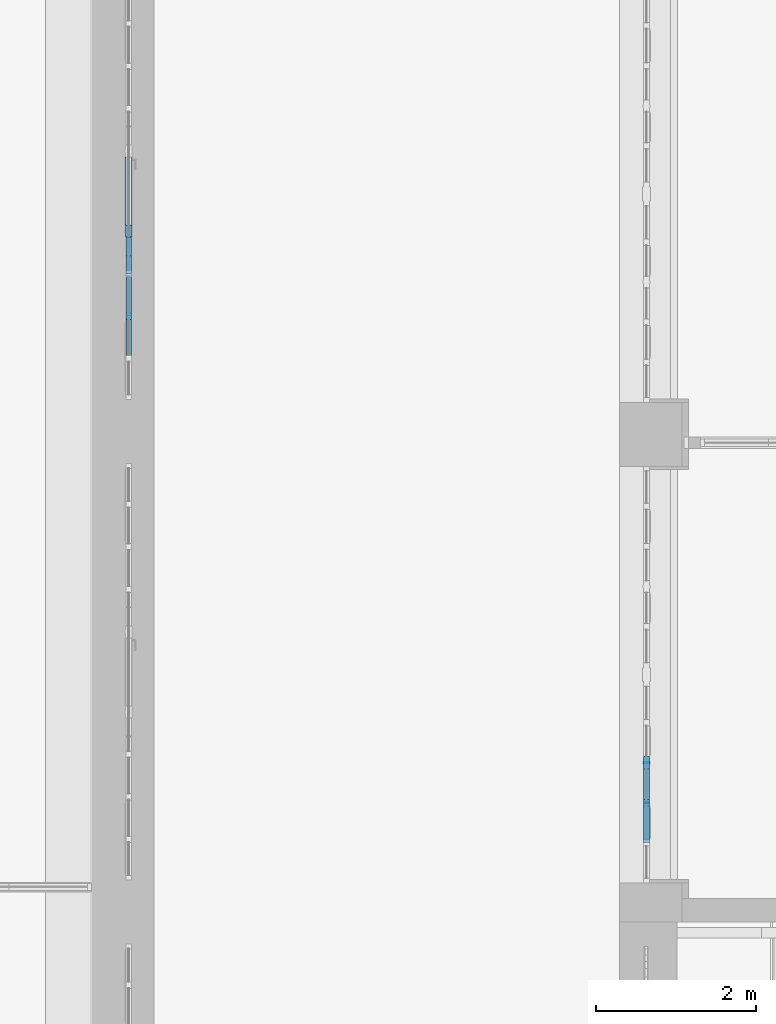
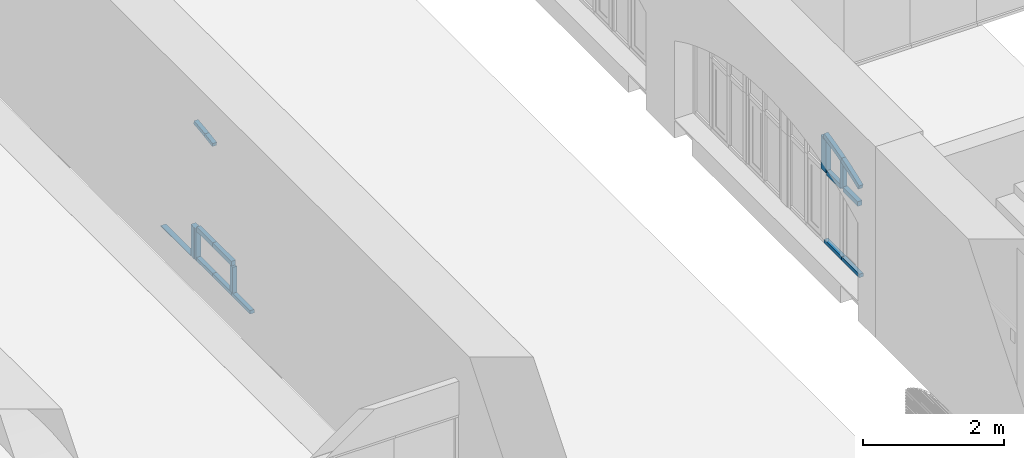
# One storey, part 36 of 88: 18 members, 2 elements without a shape of their own.
"""IFC2X3 building model written with IfcOpenShell, lengths in millimetres."""

from ifc_helpers import new_model, entity, si_unit, converted_unit, derived_unit, direction, frame, frame_2d, origin, place, context, subcontext, project, spatial, polyline, circle_curve, parameter, trimmed, segment, composite_curve, rectangle, outline, extrude, faceted_brep, source, transform, mapped, material, type_object, type_shapes, element, aggregate, save


model = new_model("IFC2X3")

# Units and contexts
model_context = context("Model", 3, precision=0.01, world=origin(), true_north=direction((6.123031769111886e-17, 1.0)))
body_context = subcontext(model_context, "Body", "Model", "MODEL_VIEW")
ifc_project = project(units=[si_unit("LENGTHUNIT", "METRE", prefix="MILLI"), si_unit("AREAUNIT", "SQUARE_METRE"), si_unit("VOLUMEUNIT", "CUBIC_METRE"), converted_unit("PLANEANGLEUNIT", "DEGREE", entity("IfcPlaneAngleMeasure", 0.017453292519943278), si_unit("PLANEANGLEUNIT", "RADIAN"), dimensions=[0, 0, 0, 0, 0, 0, 0]), si_unit("MASSUNIT", "GRAM", prefix="KILO"), derived_unit("MASSDENSITYUNIT", [(si_unit("MASSUNIT", "GRAM", prefix="KILO"), 1), (si_unit("LENGTHUNIT", "METRE"), -3)]), derived_unit("IONCONCENTRATIONUNIT", [(si_unit("MASSUNIT", "GRAM", prefix="KILO"), 1), (si_unit("LENGTHUNIT", "METRE"), -3)]), derived_unit("MOMENTOFINERTIAUNIT", [(si_unit("LENGTHUNIT", "METRE"), 4)]), si_unit("TIMEUNIT", "SECOND"), si_unit("FREQUENCYUNIT", "HERTZ"), si_unit("THERMODYNAMICTEMPERATUREUNIT", "DEGREE_CELSIUS"), derived_unit("THERMALTRANSMITTANCEUNIT", [(si_unit("MASSUNIT", "GRAM", prefix="KILO"), 1), (si_unit("THERMODYNAMICTEMPERATUREUNIT", "KELVIN"), -1), (si_unit("TIMEUNIT", "SECOND"), -3)]), derived_unit("THERMALCONDUCTANCEUNIT", [(si_unit("MASSUNIT", "GRAM", prefix="KILO"), 1), (si_unit("THERMODYNAMICTEMPERATUREUNIT", "KELVIN"), -1), (si_unit("TIMEUNIT", "SECOND"), -3), (si_unit("LENGTHUNIT", "METRE"), 1)]), derived_unit("VOLUMETRICFLOWRATEUNIT", [(si_unit("LENGTHUNIT", "METRE", prefix="DECI"), 3), (si_unit("TIMEUNIT", "SECOND"), -1)]), derived_unit("MASSFLOWRATEUNIT", [(si_unit("MASSUNIT", "GRAM", prefix="KILO"), 1), (si_unit("TIMEUNIT", "SECOND"), -1)]), derived_unit("ROTATIONALFREQUENCYUNIT", [(si_unit("TIMEUNIT", "SECOND"), -1)]), si_unit("ELECTRICCURRENTUNIT", "AMPERE"), si_unit("ELECTRICVOLTAGEUNIT", "VOLT"), si_unit("POWERUNIT", "WATT"), si_unit("FORCEUNIT", "NEWTON", prefix="KILO"), si_unit("ILLUMINANCEUNIT", "LUX"), si_unit("LUMINOUSFLUXUNIT", "LUMEN"), si_unit("LUMINOUSINTENSITYUNIT", "CANDELA"), si_unit("ENERGYUNIT", "JOULE"), derived_unit("USERDEFINED", [(si_unit("MASSUNIT", "GRAM", prefix="KILO"), -1), (si_unit("LENGTHUNIT", "METRE"), -2), (si_unit("TIMEUNIT", "SECOND"), 3), (si_unit("LUMINOUSFLUXUNIT", "LUMEN"), 1)]), derived_unit("USERDEFINED", [(si_unit("MASSUNIT", "GRAM", prefix="KILO"), 1), (si_unit("TIMEUNIT", "SECOND"), -3), (si_unit("LENGTHUNIT", "METRE"), 3), (si_unit("ELECTRICCURRENTUNIT", "AMPERE"), -2)]), derived_unit("SOUNDPOWERUNIT", [(si_unit("MASSUNIT", "GRAM", prefix="KILO"), 1), (si_unit("TIMEUNIT", "SECOND"), -3), (si_unit("LENGTHUNIT", "METRE"), 2)]), derived_unit("SOUNDPRESSUREUNIT", [(si_unit("MASSUNIT", "GRAM", prefix="KILO"), 1), (si_unit("LENGTHUNIT", "METRE"), -1), (si_unit("TIMEUNIT", "SECOND"), -2)]), derived_unit("LINEARVELOCITYUNIT", [(si_unit("LENGTHUNIT", "METRE"), 1), (si_unit("TIMEUNIT", "SECOND"), -1)]), si_unit("PRESSUREUNIT", "PASCAL"), derived_unit("USERDEFINED", [(si_unit("MASSUNIT", "GRAM", prefix="KILO"), 1), (si_unit("LENGTHUNIT", "METRE"), -2), (si_unit("TIMEUNIT", "SECOND"), -2)]), derived_unit("LINEARFORCEUNIT", [(si_unit("MASSUNIT", "GRAM", prefix="KILO"), 1), (si_unit("TIMEUNIT", "SECOND"), -2)]), derived_unit("PLANARFORCEUNIT", [(si_unit("MASSUNIT", "GRAM", prefix="KILO"), 1), (si_unit("LENGTHUNIT", "METRE"), -1), (si_unit("TIMEUNIT", "SECOND"), -2)]), derived_unit("SPECIFICHEATCAPACITYUNIT", [(si_unit("THERMODYNAMICTEMPERATUREUNIT", "KELVIN"), -1), (si_unit("LENGTHUNIT", "METRE"), 2), (si_unit("TIMEUNIT", "SECOND"), -2)]), derived_unit("HEATFLUXDENSITYUNIT", [(si_unit("MASSUNIT", "GRAM", prefix="KILO"), 1), (si_unit("TIMEUNIT", "SECOND"), -3)]), derived_unit("HEATINGVALUEUNIT", [(si_unit("LENGTHUNIT", "METRE"), 2), (si_unit("TIMEUNIT", "SECOND"), -2)]), derived_unit("VAPORPERMEABILITYUNIT", [(si_unit("LENGTHUNIT", "METRE"), -1), (si_unit("TIMEUNIT", "SECOND"), 1)]), derived_unit("DYNAMICVISCOSITYUNIT", [(si_unit("MASSUNIT", "GRAM", prefix="KILO"), 1), (si_unit("TIMEUNIT", "SECOND"), -1), (si_unit("LENGTHUNIT", "METRE"), -1)]), derived_unit("THERMALEXPANSIONCOEFFICIENTUNIT", [(si_unit("THERMODYNAMICTEMPERATUREUNIT", "KELVIN"), -1)]), derived_unit("MODULUSOFELASTICITYUNIT", [(si_unit("MASSUNIT", "GRAM", prefix="KILO"), 1), (si_unit("LENGTHUNIT", "METRE"), -1), (si_unit("TIMEUNIT", "SECOND"), -2)]), derived_unit("ISOTHERMALMOISTURECAPACITYUNIT", [(si_unit("MASSUNIT", "GRAM", prefix="KILO"), -1), (si_unit("LENGTHUNIT", "METRE"), 3)]), derived_unit("MOISTUREDIFFUSIVITYUNIT", [(si_unit("TIMEUNIT", "SECOND"), -1), (si_unit("LENGTHUNIT", "METRE"), 2)]), derived_unit("MASSPERLENGTHUNIT", [(si_unit("MASSUNIT", "GRAM", prefix="KILO"), 1), (si_unit("LENGTHUNIT", "METRE"), -1)]), derived_unit("THERMALRESISTANCEUNIT", [(si_unit("MASSUNIT", "GRAM", prefix="KILO"), -1), (si_unit("TIMEUNIT", "SECOND"), 3), (si_unit("THERMODYNAMICTEMPERATUREUNIT", "KELVIN"), 1)]), derived_unit("ACCELERATIONUNIT", [(si_unit("LENGTHUNIT", "METRE"), 1), (si_unit("TIMEUNIT", "SECOND"), -2)]), derived_unit("ANGULARVELOCITYUNIT", [(si_unit("TIMEUNIT", "SECOND"), -1), (si_unit("PLANEANGLEUNIT", "RADIAN"), 1)]), derived_unit("LINEARSTIFFNESSUNIT", [(si_unit("MASSUNIT", "GRAM", prefix="KILO"), 1), (si_unit("TIMEUNIT", "SECOND"), -2)]), derived_unit("WARPINGCONSTANTUNIT", [(si_unit("LENGTHUNIT", "METRE"), 6)]), derived_unit("LINEARMOMENTUNIT", [(si_unit("MASSUNIT", "GRAM", prefix="KILO"), 1), (si_unit("LENGTHUNIT", "METRE"), 1), (si_unit("TIMEUNIT", "SECOND"), -2)]), derived_unit("TORQUEUNIT", [(si_unit("MASSUNIT", "GRAM", prefix="KILO"), 1), (si_unit("LENGTHUNIT", "METRE"), 2), (si_unit("TIMEUNIT", "SECOND"), -2)])], contexts=[model_context])

# Site, building, storey
site_placement = place(None, origin())
site = spatial("IfcSite", under=ifc_project, at=site_placement, Name="Default", CompositionType="ELEMENT")
building_placement = place(site_placement, origin())
building = spatial("IfcBuilding", under=site, at=building_placement, Name="Eesti Rahvusraamatukogu hoone renoveerimise projekteerimistööd", CompositionType="ELEMENT")
storey_placement = place(building_placement, origin())
storey = spatial("IfcBuildingStorey", under=building, at=storey_placement, Name="1. korrus", CompositionType="ELEMENT", Elevation=0.0)

# Curtain wall, members
curtain_wall_type_1 = type_object("IfcCurtainWallType", Name="Curtain Wall:Ak-02", PredefinedType="NOTDEFINED")
curtain_wall_1_placement = place(storey_placement, origin())
curtain_wall_1 = element("IfcCurtainWall", 1, at=curtain_wall_1_placement, inside=storey, type_object=curtain_wall_type_1, Name="Curtain Wall:Ak-02", ObjectType="Curtain Wall:Ak-02")
ifc_material_1 = material(Name="LUMION_dark steel window frames")
member_type_1 = type_object("IfcMemberType", Name="Rectangular Mullion:NEW 80x70mm", PredefinedType="MULLION", material=ifc_material_1)
shared_shape_1 = source(origin(), body_context, "Body", "SweptSolid", [
    extrude(outline(composite_curve([segment(polyline([(-51.95542765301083, -255.69780513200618), (28.044572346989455, -255.69780513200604)]), True, "CONTINUOUS"), segment(trimmed(circle_curve(frame_2d((5468.760252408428, -255.6978051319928), x_axis=(-0.9956372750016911, 0.09330818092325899)), 5440.715680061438), [parameter(3.5622212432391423e-13)], [parameter(5.353953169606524)], True, "PARAMETER"), False, "CONTINUOUS"), segment(polyline([(51.78091865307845, 251.96547789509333), (-27.870063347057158, 259.4301323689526)]), True, "CONTINUOUS"), segment(trimmed(circle_curve(frame_2d((5468.760252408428, -255.6978051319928), x_axis=(-0.9956372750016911, 0.09330818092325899)), 5520.715680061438), [parameter(3.5622212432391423e-13)], [parameter(5.353953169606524)], True, "PARAMETER"), True, "CONTINUOUS")], self_intersect=False)), frame((-51.9554276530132, -35.0, -255.6978051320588), z_axis=(0.0, 1.0, 0.0), x_axis=(-0.9956372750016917, 0.0, 0.09330818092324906)), (0.0, 0.0, 1.0), 70.00000000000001),
])
type_shapes(member_type_1, [shared_shape_1])
member_1_placement = place(curtain_wall_1_placement, frame((-36440.0, 31790.0, 3743.6333100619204), z_axis=(0.0, -0.9570819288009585, -0.2898174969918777), x_axis=(0.0, -0.2898174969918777, 0.9570819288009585)))
member_1 = element("IfcMember", 2, at=member_1_placement, type_object=member_type_1, material=ifc_material_1, Name="Rectangular Mullion:NEW 80x70mm", ObjectType="Rectangular Mullion:NEW 80x70mm", context=body_context, shape_type="MappedRepresentation", body=[
    mapped(shared_shape_1, transform((0.0, 0.0, 0.0), scale=1.0)),
])
member_type_2 = type_object("IfcMemberType", Name="Rectangular Mullion:NEW 80x70mm", PredefinedType="MULLION", material=ifc_material_1)
shared_shape_2 = source(origin(), body_context, "Body", "SweptSolid", [
    extrude(outline(composite_curve([segment(polyline([(-52.66438607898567, -263.1530214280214), (27.33561392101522, -263.1530214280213)]), True, "CONTINUOUS"), segment(trimmed(circle_curve(frame_2d((5468.05129398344, -263.15302142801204), x_axis=(-0.9953785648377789, 0.09602870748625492)), 5440.715680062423), [parameter(3.5622212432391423e-13)], [parameter(5.510531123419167)], True, "PARAMETER"), False, "CONTINUOUS"), segment(polyline([(52.47952867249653, 259.31187312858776), (-27.150756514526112, 266.99416972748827)]), True, "CONTINUOUS"), segment(trimmed(circle_curve(frame_2d((5468.05129398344, -263.15302142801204), x_axis=(-0.9953785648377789, 0.09602870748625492)), 5520.715680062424), [parameter(3.5622212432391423e-13)], [parameter(5.510531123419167)], True, "PARAMETER"), True, "CONTINUOUS")], self_intersect=False)), frame((-52.66438607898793, -35.0, -263.1530214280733), z_axis=(0.0, 1.0, 0.0), x_axis=(-0.9953785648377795, 0.0, 0.09602870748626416)), (0.0, 0.0, 1.0), 70.0),
])
type_shapes(member_type_2, [shared_shape_2])
member_2_placement = place(curtain_wall_1_placement, frame((-36440.0, 31290.0, 3565.568744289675), z_axis=(0.0, -0.9248280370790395, -0.38038546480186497), x_axis=(0.0, -0.38038546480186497, 0.9248280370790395)))
member_2 = element("IfcMember", 3, at=member_2_placement, type_object=member_type_2, material=ifc_material_1, Name="Rectangular Mullion:NEW 80x70mm", ObjectType="Rectangular Mullion:NEW 80x70mm", context=body_context, shape_type="MappedRepresentation", body=[
    mapped(shared_shape_2, transform((0.0, 0.0, 0.0), scale=1.0)),
])
member_type_3 = type_object("IfcMemberType", Name="Rectangular Mullion:NEW 150x90mm", PredefinedType="MULLION", material=ifc_material_1)
shared_shape_3 = source(origin(), body_context, "Body", "Brep", [
    faceted_brep([(-20.0, -40.0, 0.0), (-20.0, -45.0, 0.0), (20.0, -45.0, 0.0), (20.0, -40.0, 0.0), (75.0, -40.0, 0.0), (75.0, 40.0, 0.0), (20.0, 40.0, 0.0), (20.0, 45.0, 0.0), (-20.0, 45.0, 0.0), (-20.0, 40.0, 0.0), (-75.0, 40.0, 0.0), (-75.0, -40.0, 0.0), (-20.0, 40.0, -562.3027332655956), (-47.48603249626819, 40.0, -567.7959127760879), (-75.0, 40.0, -573.1474168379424), (75.0, 40.0, -542.1778237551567), (47.51534075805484, 40.0, -548.1824945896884), (20.0, 40.0, -554.044967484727), (-75.0, -40.0, -573.1474168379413), (-47.48603249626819, -40.0, -567.7959127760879), (-20.0, -40.0, -562.3027332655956), (20.0, -40.0, -554.0449674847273), (47.51534075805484, -40.0, -548.1824945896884), (75.0, -40.0, -542.1778237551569), (-20.0, -45.0, -562.3027332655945), (-20.0, 45.0, -562.3027332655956), (-17.969902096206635, -45.0, -561.891167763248), (-15.939962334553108, -45.0, -561.4788296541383), (2.036281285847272, -45.0, -557.7922042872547), (20.0, -45.0, -554.044967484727), (20.0, 45.0, -554.0449674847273), (2.0362812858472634, 45.0, -557.7922042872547), (-15.939962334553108, 45.0, -561.4788296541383), (-17.969902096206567, 45.0, -561.8911677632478), (-15.939962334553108, -33.75000000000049, -561.4788296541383), (-15.939962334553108, -22.50000000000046, -561.4788296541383), (-15.939962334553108, 33.7499999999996, -561.4788296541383), (-15.939962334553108, 22.49999999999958, -561.4788296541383), (-15.939962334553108, 0.0, -561.4788296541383)], [[[0, 1, 2, 3, 4, 5, 6, 7, 8, 9, 10, 11]], [[10, 9, 12, 13, 14]], [[6, 5, 15, 16, 17]], [[11, 10, 14, 18]], [[0, 11, 18, 19, 20]], [[4, 3, 21, 22, 23]], [[1, 0, 20, 24]], [[9, 8, 25, 12]], [[1, 24, 26, 27, 28, 29, 2]], [[3, 2, 29, 21]], [[7, 6, 17, 30]], [[5, 4, 23, 15]], [[7, 30, 31, 32, 33, 25, 8]], [[26, 20, 27]], [[34, 27, 20, 35]], [[12, 32, 36, 37]], [[12, 33, 32]], [[12, 25, 33]], [[20, 26, 24]], [[38, 35, 19, 13, 37]], [[19, 35, 20]], [[13, 19, 18, 14]], [[12, 37, 13]], [[15, 23, 22, 16]], [[16, 22, 21, 17]], [[21, 29, 28, 31, 30, 17]], [[31, 28, 27, 34, 35, 38, 37, 36, 32]]]),
])
type_shapes(member_type_3, [shared_shape_3])
member_3_placement = place(curtain_wall_1_placement, frame((-36440.0, 32290.0, 3230.0), z_axis=(0.0, 0.0, -1.0), x_axis=(0.0, -1.0, 0.0)))
member_3 = element("IfcMember", 4, at=member_3_placement, type_object=member_type_3, material=ifc_material_1, Name="Rectangular Mullion:NEW 150x90mm", ObjectType="Rectangular Mullion:NEW 150x90mm", context=body_context, shape_type="MappedRepresentation", body=[
    mapped(shared_shape_3, transform((0.0, 0.0, 0.0), scale=1.0)),
])
member_type_4 = type_object("IfcMemberType", Name="Rectangular Mullion:NEW 80x70mm", PredefinedType="MULLION", material=ifc_material_1)
shared_shape_4 = source(origin(), body_context, "Body", "SweptSolid", [
    extrude(outline(composite_curve([segment(polyline([(-259.341776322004, -44.637079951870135), (158.1715113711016, -44.637079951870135)]), True, "CONTINUOUS"), segment(trimmed(circle_curve(frame_2d((-5029.485677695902, 1595.362920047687), x_axis=(0.9248280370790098, -0.3803854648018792)), 5440.715680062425), [parameter(4.8139927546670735)], [parameter(5.510531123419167)], True, "PARAMETER"), True, "CONTINUOUS"), segment(trimmed(circle_curve(frame_2d((-5029.48567769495, 1595.3629200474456), x_axis=(0.9570819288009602, -0.28981749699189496)), 5440.715680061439), [parameter(0.0)], [parameter(0.18492371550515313)], True, "PARAMETER"), True, "CONTINUOUS"), segment(polyline([(182.78706183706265, 35.36292004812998), (-259.341776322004, 35.362920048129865)]), True, "CONTINUOUS"), segment(polyline([(-259.341776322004, 35.362920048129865), (-259.341776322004, -44.637079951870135)]), True, "CONTINUOUS")], self_intersect=False)), frame((-4.637079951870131, -35.0, -259.341776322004), z_axis=(0.0, 1.0, 0.0), x_axis=(0.0, 0.0, -1.0)), (0.0, 0.0, 1.0), 69.99999999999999),
])
type_shapes(member_type_4, [shared_shape_4])
member_4_placement = place(curtain_wall_1_placement, frame((-36440.0, 31790.0, 3230.0), z_axis=(0.0, 0.0, -1.0), x_axis=(0.0, -1.0, 0.0)))
member_4 = element("IfcMember", 5, at=member_4_placement, type_object=member_type_4, material=ifc_material_1, Name="Rectangular Mullion:NEW 80x70mm", ObjectType="Rectangular Mullion:NEW 80x70mm", context=body_context, shape_type="MappedRepresentation", body=[
    mapped(shared_shape_4, transform((0.0, 0.0, 0.0), scale=1.0)),
])
member_type_5 = type_object("IfcMemberType", Name="Rectangular Mullion:NEW 80x70mm", PredefinedType="MULLION", material=ifc_material_1)
shared_shape_5 = source(origin(), body_context, "Body", "SweptSolid", [
    extrude(rectangle(XDim=80.0, YDim=70.0, at=frame_2d((0.0, -3.552713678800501e-15), x_axis=(1.0, 0.0))), frame((0.0, 0.0, -420.0), z_axis=(0.0, 0.0, 1.0), x_axis=(-1.0, 0.0, 0.0)), (0.0, 0.0, 1.0), 419.999999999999),
])
type_shapes(member_type_5, [shared_shape_5])
member_5_placement = place(curtain_wall_1_placement, frame((-36440.0, 31330.0, 3230.0), z_axis=(0.0, -1.0, 0.0), x_axis=(0.0, 0.0, 1.0)))
member_5 = element("IfcMember", 6, at=member_5_placement, type_object=member_type_5, material=ifc_material_1, Name="Rectangular Mullion:NEW 80x70mm", ObjectType="Rectangular Mullion:NEW 80x70mm", context=body_context, shape_type="MappedRepresentation", body=[
    mapped(shared_shape_5, transform((0.0, 0.0, 0.0), scale=1.0)),
])
member_type_6 = type_object("IfcMemberType", Name="Rectangular Mullion:NEW 80x70mm", PredefinedType="MULLION", material=ifc_material_1)
shared_shape_6 = source(origin(), body_context, "Body", "SweptSolid", [
    extrude(rectangle(XDim=80.0, YDim=70.0, at=frame_2d((0.0, -3.552713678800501e-15), x_axis=(1.0, 0.0))), frame((0.0, 0.0, -385.0), z_axis=(0.0, 0.0, 1.0), x_axis=(-1.0, 0.0, 0.0)), (0.0, 0.0, 1.0), 384.99999999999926),
])
type_shapes(member_type_6, [shared_shape_6])
member_6_placement = place(curtain_wall_1_placement, frame((-36440.0, 31830.0, 3230.0), z_axis=(0.0, -1.0, 0.0), x_axis=(0.0, 0.0, 1.0)))
member_6 = element("IfcMember", 7, at=member_6_placement, type_object=member_type_6, material=ifc_material_1, Name="Rectangular Mullion:NEW 80x70mm", ObjectType="Rectangular Mullion:NEW 80x70mm", context=body_context, shape_type="MappedRepresentation", body=[
    mapped(shared_shape_6, transform((0.0, 0.0, 0.0), scale=1.0)),
])
member_type_7 = type_object("IfcMemberType", Name="Rectangular Mullion:NEW 60x70mm", PredefinedType="MULLION", material=ifc_material_1)
shared_shape_7 = source(origin(), body_context, "Body", "SweptSolid", [
    extrude(rectangle(XDim=60.0, YDim=70.0, at=frame_2d((0.0, 3.552713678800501e-15), x_axis=(1.0, 0.0))), frame((-30.0, 0.0, -500.0), z_axis=(0.0, 0.0, 1.0), x_axis=(-1.0, 0.0, 0.0)), (0.0, 0.0, 1.0), 499.999999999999),
])
type_shapes(member_type_7, [shared_shape_7])
member_7_placement = place(curtain_wall_1_placement, frame((-36440.0, 32290.0, 1980.0), z_axis=(0.0, 1.0, 0.0), x_axis=(0.0, 0.0, -1.0)))
member_7 = element("IfcMember", 8, at=member_7_placement, type_object=member_type_7, material=ifc_material_1, Name="Rectangular Mullion:NEW 60x70mm", ObjectType="Rectangular Mullion:NEW 60x70mm", context=body_context, shape_type="MappedRepresentation", body=[
    mapped(shared_shape_7, transform((0.0, 0.0, 0.0), scale=1.0)),
])
member_8_placement = place(curtain_wall_1_placement, frame((-36440.0, 31790.0, 1980.0), z_axis=(0.0, 1.0, 0.0), x_axis=(0.0, 0.0, -1.0)))
member_8 = element("IfcMember", 9, at=member_8_placement, type_object=member_type_7, material=ifc_material_1, Name="Rectangular Mullion:NEW 60x70mm", ObjectType="Rectangular Mullion:NEW 60x70mm", context=body_context, shape_type="MappedRepresentation", body=[
    mapped(shared_shape_7, transform((0.0, 0.0, 0.0), scale=1.0)),
])
aggregate(curtain_wall_1, [member_1, member_2, member_3, member_4, member_6, member_5, member_7, member_8])

curtain_wall_type_2 = type_object("IfcCurtainWallType", Name="Curtain Wall:Ak-05", PredefinedType="NOTDEFINED")
curtain_wall_2_placement = place(storey_placement, origin())
curtain_wall_2 = element("IfcCurtainWall", 10, at=curtain_wall_2_placement, inside=storey, type_object=curtain_wall_type_2, Name="Curtain Wall:Ak-05", ObjectType="Curtain Wall:Ak-05")
member_type_8 = type_object("IfcMemberType", Name="Rectangular Mullion:NEW 60x70mm", PredefinedType="MULLION", material=ifc_material_1)
shared_shape_8 = source(origin(), body_context, "Body", "SweptSolid", [
    extrude(outline(composite_curve([segment(polyline([(-32.20246871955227, -109.97239538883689), (27.79753128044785, -109.97239538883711)]), True, "CONTINUOUS"), segment(trimmed(circle_curve(frame_2d((5491.078098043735, -109.97239538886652), x_axis=(-0.9991981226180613, 0.040038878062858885)), 5463.280566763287), [parameter(3.5622212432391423e-13)], [parameter(2.2946721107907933)], True, "PARAMETER"), False, "CONTINUOUS"), segment(polyline([(32.17841239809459, 108.77122904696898), (-27.7734749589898, 111.17356173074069)]), True, "CONTINUOUS"), segment(trimmed(circle_curve(frame_2d((5491.078098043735, -109.97239538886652), x_axis=(-0.9991981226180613, 0.040038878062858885)), 5523.280566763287), [parameter(3.5622212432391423e-13)], [parameter(2.2946721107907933)], True, "PARAMETER"), True, "CONTINUOUS")], self_intersect=False)), frame((-32.202468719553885, -35.0, -109.9723953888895), z_axis=(0.0, 1.0, 0.0), x_axis=(-0.9991981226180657, 0.0, 0.04003887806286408)), (0.0, 0.0, 1.0), 69.99999999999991),
])
type_shapes(member_type_8, [shared_shape_8])
member_9_placement = place(curtain_wall_2_placement, frame((-42905.0, 38395.0, 2253.1112564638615), z_axis=(0.0, -0.9824581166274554, -0.18648337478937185), x_axis=(0.0, -0.18648337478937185, 0.9824581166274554)))
member_9 = element("IfcMember", 11, at=member_9_placement, type_object=member_type_8, material=ifc_material_1, Name="Rectangular Mullion:NEW 60x70mm", ObjectType="Rectangular Mullion:NEW 60x70mm", context=body_context, shape_type="MappedRepresentation", body=[
    mapped(shared_shape_8, transform((0.0, 0.0, 0.0), scale=1.0)),
])
member_type_9 = type_object("IfcMemberType", Name="Rectangular Mullion:NEW 150x90mm", PredefinedType="MULLION", material=ifc_material_1)
shared_shape_9 = source(origin(), body_context, "Body", "SweptSolid", [
    extrude(outline(polyline([(40.0, -20.0), (45.0, -20.0), (45.0, 20.0), (40.0, 20.0), (40.0, 75.0), (-40.0, 75.0), (-40.0, 20.0), (-45.0, 20.0), (-45.0, -20.0), (-40.0, -20.0), (-40.0, -75.0), (40.0, -75.0), (40.0, -20.0)])), frame((0.0, 0.0, -550.0), z_axis=(0.0, 0.0, 1.0), x_axis=(0.0, -1.0, 0.0)), (0.0, 0.0, 1.0), 550.0000000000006),
])
type_shapes(member_type_9, [shared_shape_9])
member_10_placement = place(curtain_wall_2_placement, frame((-42905.0, 38925.0, -50.0), z_axis=(0.0, 0.0, -1.0), x_axis=(0.0, -1.0, 0.0)))
member_10 = element("IfcMember", 12, at=member_10_placement, type_object=member_type_9, material=ifc_material_1, Name="Rectangular Mullion:NEW 150x90mm", ObjectType="Rectangular Mullion:NEW 150x90mm", context=body_context, shape_type="MappedRepresentation", body=[
    mapped(shared_shape_9, transform((0.0, 0.0, 0.0), scale=1.0)),
])
member_type_10 = type_object("IfcMemberType", Name="Rectangular Mullion:NEW 80x70mm", PredefinedType="MULLION", material=ifc_material_1)
shared_shape_10 = source(origin(), body_context, "Body", "SweptSolid", [
    extrude(rectangle(XDim=80.0, YDim=70.0, at=frame_2d((0.0, -3.552713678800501e-15), x_axis=(1.0, 0.0))), frame((0.0, 0.0, -530.0), z_axis=(0.0, 0.0, 1.0), x_axis=(-1.0, 0.0, 0.0)), (0.0, 0.0, 1.0), 530.0000000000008),
])
type_shapes(member_type_10, [shared_shape_10])
member_11_placement = place(curtain_wall_2_placement, frame((-42905.0, 37865.0, 500.0), z_axis=(0.0, -1.0, 0.0), x_axis=(0.0, 0.0, 1.0)))
member_11 = element("IfcMember", 13, at=member_11_placement, type_object=member_type_10, material=ifc_material_1, Name="Rectangular Mullion:NEW 80x70mm", ObjectType="Rectangular Mullion:NEW 80x70mm", context=body_context, shape_type="MappedRepresentation", body=[
    mapped(shared_shape_10, transform((0.0, 0.0, 0.0), scale=1.0)),
])
member_type_11 = type_object("IfcMemberType", Name="Rectangular Mullion:NEW 80x70mm", PredefinedType="MULLION", material=ifc_material_1)
shared_shape_11 = source(origin(), body_context, "Body", "SweptSolid", [
    extrude(rectangle(XDim=80.0, YDim=70.0, at=frame_2d((0.0, -3.552713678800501e-15), x_axis=(1.0, 0.0))), frame((0.0, 0.0, -455.0), z_axis=(0.0, 0.0, 1.0), x_axis=(-1.0, 0.0, 0.0)), (0.0, 0.0, 1.0), 455.0000000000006),
])
type_shapes(member_type_11, [shared_shape_11])
member_12_placement = place(curtain_wall_2_placement, frame((-42905.0, 38395.0, 500.0), z_axis=(0.0, -1.0, 0.0), x_axis=(0.0, 0.0, 1.0)))
member_12 = element("IfcMember", 14, at=member_12_placement, type_object=member_type_11, material=ifc_material_1, Name="Rectangular Mullion:NEW 80x70mm", ObjectType="Rectangular Mullion:NEW 80x70mm", context=body_context, shape_type="MappedRepresentation", body=[
    mapped(shared_shape_11, transform((0.0, 0.0, 0.0), scale=1.0)),
])
member_type_12 = type_object("IfcMemberType", Name="Rectangular Mullion:NEW 80x70mm", PredefinedType="MULLION", material=ifc_material_1)
shared_shape_12 = source(origin(), body_context, "Body", "SweptSolid", [
    extrude(rectangle(XDim=80.0, YDim=70.0, at=frame_2d((0.0, 3.552713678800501e-15), x_axis=(1.0, 0.0))), frame((0.0, 0.0, -450.0), z_axis=(0.0, 0.0, 1.0), x_axis=(-1.0, 0.0, 0.0)), (0.0, 0.0, 1.0), 450.00000000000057),
])
type_shapes(member_type_12, [shared_shape_12])
member_13_placement = place(curtain_wall_2_placement, frame((-42905.0, 37865.0, 10.0), z_axis=(0.0, 0.0, -1.0), x_axis=(0.0, -1.0, 0.0)))
member_13 = element("IfcMember", 15, at=member_13_placement, type_object=member_type_12, material=ifc_material_1, Name="Rectangular Mullion:NEW 80x70mm", ObjectType="Rectangular Mullion:NEW 80x70mm", context=body_context, shape_type="MappedRepresentation", body=[
    mapped(shared_shape_12, transform((0.0, 0.0, 0.0), scale=1.0)),
])
member_type_13 = type_object("IfcMemberType", Name="Rectangular Mullion:NEW 60x70mm", PredefinedType="MULLION", material=ifc_material_1)
shared_shape_13 = source(origin(), body_context, "Body", "SweptSolid", [
    extrude(rectangle(XDim=60.0, YDim=70.0, at=frame_2d((0.0, 3.552713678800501e-15), x_axis=(1.0, 0.0))), frame((-30.0, 0.0, -530.0), z_axis=(0.0, 0.0, 1.0), x_axis=(-1.0, 0.0, 0.0)), (0.0, 0.0, 1.0), 530.0000000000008),
])
type_shapes(member_type_13, [shared_shape_13])
member_14_placement = place(curtain_wall_2_placement, frame((-42905.0, 37865.0, -50.0), z_axis=(0.0, 1.0, 0.0), x_axis=(0.0, 0.0, -1.0)))
member_14 = element("IfcMember", 16, at=member_14_placement, type_object=member_type_13, material=ifc_material_1, Name="Rectangular Mullion:NEW 60x70mm", ObjectType="Rectangular Mullion:NEW 60x70mm", context=body_context, shape_type="MappedRepresentation", body=[
    mapped(shared_shape_13, transform((0.0, 0.0, 0.0), scale=1.0)),
])
member_type_14 = type_object("IfcMemberType", Name="Rectangular Mullion:NEW 60x70mm", PredefinedType="MULLION", material=ifc_material_1)
shared_shape_14 = source(origin(), body_context, "Body", "SweptSolid", [
    extrude(rectangle(XDim=60.0, YDim=70.0, at=frame_2d((0.0, 3.552713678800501e-15), x_axis=(1.0, 0.0))), frame((-30.0, 0.0, -530.0), z_axis=(0.0, 0.0, 1.0), x_axis=(-1.0, 0.0, 0.0)), (0.0, 0.0, 1.0), 530.0000000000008),
])
type_shapes(member_type_14, [shared_shape_14])
member_15_placement = place(curtain_wall_2_placement, frame((-42905.0, 38395.0, -50.0), z_axis=(0.0, 1.0, 0.0), x_axis=(0.0, 0.0, -1.0)))
member_15 = element("IfcMember", 17, at=member_15_placement, type_object=member_type_14, material=ifc_material_1, Name="Rectangular Mullion:NEW 60x70mm", ObjectType="Rectangular Mullion:NEW 60x70mm", context=body_context, shape_type="MappedRepresentation", body=[
    mapped(shared_shape_14, transform((0.0, 0.0, 0.0), scale=1.0)),
])
member_type_15 = type_object("IfcMemberType", Name="Rectangular Mullion:NEW 60x70mm", PredefinedType="MULLION", material=ifc_material_1)
shared_shape_15 = source(origin(), body_context, "Body", "SweptSolid", [
    extrude(rectangle(XDim=60.0, YDim=70.0, at=frame_2d((0.0, 3.552713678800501e-15), x_axis=(1.0, 0.0))), frame((-30.0, 0.0, -455.0), z_axis=(0.0, 0.0, 1.0), x_axis=(-1.0, 0.0, 0.0)), (0.0, 0.0, 1.0), 455.0000000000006),
])
type_shapes(member_type_15, [shared_shape_15])
member_16_placement = place(curtain_wall_2_placement, frame((-42905.0, 38850.0, -50.0), z_axis=(0.0, 1.0, 0.0), x_axis=(0.0, 0.0, -1.0)))
member_16 = element("IfcMember", 18, at=member_16_placement, type_object=member_type_15, material=ifc_material_1, Name="Rectangular Mullion:NEW 60x70mm", ObjectType="Rectangular Mullion:NEW 60x70mm", context=body_context, shape_type="MappedRepresentation", body=[
    mapped(shared_shape_15, transform((0.0, 0.0, 0.0), scale=1.0)),
])
ifc_material_2 = material(Name="Lumion_aluminium")
member_type_16 = type_object("IfcMemberType", Name="Rectangular Mullion:NEW 10x90mm", PredefinedType="MULLION", material=ifc_material_2)
shared_shape_16 = source(origin(), body_context, "Body", "SweptSolid", [
    extrude(rectangle(XDim=10.0, YDim=90.0, at=frame_2d((0.0, 3.552713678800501e-15), x_axis=(1.0, 0.0))), frame((-5.0, 0.0, -850.0), z_axis=(0.0, 0.0, 1.0), x_axis=(-1.0, 0.0, 0.0)), (0.0, 0.0, 1.0), 849.9999999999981),
])
type_shapes(member_type_16, [shared_shape_16])
member_17_placement = place(curtain_wall_2_placement, frame((-42905.0, 39850.0, -50.0), z_axis=(0.0, 1.0, 0.0), x_axis=(0.0, 0.0, -1.0)))
member_17 = element("IfcMember", 19, at=member_17_placement, type_object=member_type_16, material=ifc_material_2, Name="Rectangular Mullion:NEW 10x90mm", ObjectType="Rectangular Mullion:NEW 10x90mm", context=body_context, shape_type="MappedRepresentation", body=[
    mapped(shared_shape_16, transform((0.0, 0.0, 0.0), scale=1.0)),
])
member_type_17 = type_object("IfcMemberType", Name="Rectangular Mullion:NEW 60x70mm", PredefinedType="MULLION", material=ifc_material_1)
shared_shape_17 = source(origin(), body_context, "Body", "SweptSolid", [
    extrude(outline(composite_curve([segment(polyline([(-34.44225079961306, -156.14991642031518), (25.55774920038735, -156.14991642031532)]), True, "CONTINUOUS"), segment(trimmed(circle_curve(frame_2d((5488.838315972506, -156.14991642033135), x_axis=(-0.9983826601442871, 0.05685124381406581)), 5463.2805667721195), [parameter(3.5622212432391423e-13)], [parameter(3.2590935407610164)], True, "PARAMETER"), False, "CONTINUOUS"), segment(polyline([(34.393730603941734, 154.44437910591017), (-25.509229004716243, 157.8554537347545)]), True, "CONTINUOUS"), segment(trimmed(circle_curve(frame_2d((5488.838315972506, -156.14991642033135), x_axis=(-0.9983826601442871, 0.05685124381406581)), 5523.2805667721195), [parameter(3.5622212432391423e-13)], [parameter(3.2590935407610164)], True, "PARAMETER"), True, "CONTINUOUS")], self_intersect=False)), frame((-34.44225079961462, -35.0, -156.14991642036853), z_axis=(0.0, 1.0, 0.0), x_axis=(-0.9983826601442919, 0.0, 0.056851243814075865)), (0.0, 0.0, 1.0), 69.99999999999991),
])
type_shapes(member_type_17, [shared_shape_17])
member_18_placement = place(curtain_wall_2_placement, frame((-42905.0, 38613.09257423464, 2290.0), z_axis=(0.0, -0.9891368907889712, -0.14699731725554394), x_axis=(0.0, -0.14699731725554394, 0.9891368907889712)))
member_18 = element("IfcMember", 20, at=member_18_placement, type_object=member_type_17, material=ifc_material_1, Name="Rectangular Mullion:NEW 60x70mm", ObjectType="Rectangular Mullion:NEW 60x70mm", context=body_context, shape_type="MappedRepresentation", body=[
    mapped(shared_shape_17, transform((0.0, 0.0, 0.0), scale=1.0)),
])
aggregate(curtain_wall_2, [member_9, member_10, member_11, member_12, member_13, member_14, member_15, member_16, member_17, member_18])

save(model, "model.ifc")
